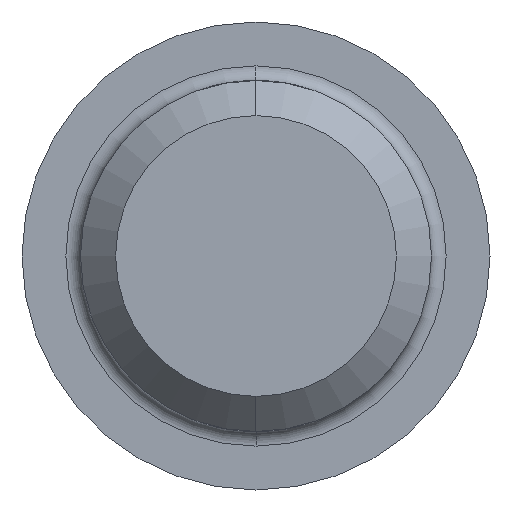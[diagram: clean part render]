
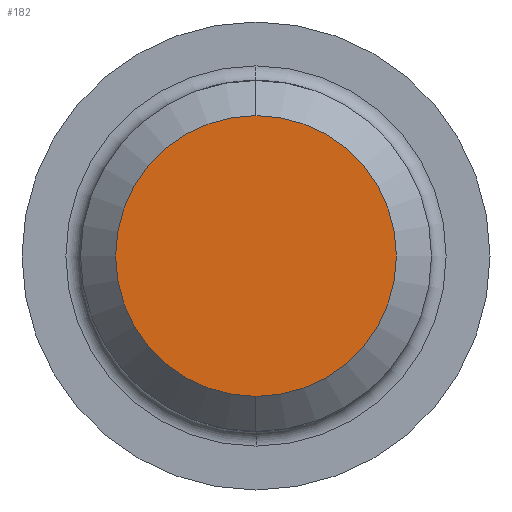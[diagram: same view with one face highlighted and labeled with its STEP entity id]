
A CAD part, left-side view. The second image highlights one B-rep face of the part: STEP entity #182.
In plain terms, the highlighted planar face has unit normal (-1, 0, 0).
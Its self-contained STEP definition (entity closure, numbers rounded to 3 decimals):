
#18 = VERTEX_POINT ( 'NONE', #169 ) ;
#19 = EDGE_CURVE ( 'NONE', #18, #88, #129, .T. ) ;
#88 = VERTEX_POINT ( 'NONE', #112 ) ;
#112 = CARTESIAN_POINT ( 'NONE',  ( -38., 0., -4.8 ) ) ;
#125 = DIRECTION ( 'NONE',  ( 0., 0., 1. ) ) ;
#126 = DIRECTION ( 'NONE',  ( -1., 0., 0. ) ) ;
#127 = AXIS2_PLACEMENT_3D ( 'NONE', #163, #126, #125 ) ;
#129 = CIRCLE ( 'NONE', #127, 4.8 ) ;
#163 = CARTESIAN_POINT ( 'NONE',  ( -38., 0., 0. ) ) ;
#169 = CARTESIAN_POINT ( 'NONE',  ( -38., 0., 4.8 ) ) ;
#179 = EDGE_CURVE ( 'NONE', #88, #18, #416, .T. ) ;
#182 = ADVANCED_FACE ( 'NONE', ( #428 ), #429, .F. ) ;
#309 = ORIENTED_EDGE ( 'NONE', *, *, #179, .T. ) ;
#310 = ORIENTED_EDGE ( 'NONE', *, *, #19, .T. ) ;
#311 = EDGE_LOOP ( 'NONE', ( #309, #310 ) ) ;
#416 = CIRCLE ( 'NONE', #426, 4.8 ) ;
#426 = AXIS2_PLACEMENT_3D ( 'NONE', #441, #440, #439 ) ;
#427 = AXIS2_PLACEMENT_3D ( 'NONE', #443, #442, #504 ) ;
#428 = FACE_OUTER_BOUND ( 'NONE', #311, .T. ) ;
#429 = PLANE ( 'NONE',  #427 ) ;
#439 = DIRECTION ( 'NONE',  ( 0., 0., 1. ) ) ;
#440 = DIRECTION ( 'NONE',  ( -1., 0., 0. ) ) ;
#441 = CARTESIAN_POINT ( 'NONE',  ( -38., 0., 0. ) ) ;
#442 = DIRECTION ( 'NONE',  ( 1., 0., 0. ) ) ;
#443 = CARTESIAN_POINT ( 'NONE',  ( -38., 4.8, 0. ) ) ;
#504 = DIRECTION ( 'NONE',  ( 0., 0., -1. ) ) ;
